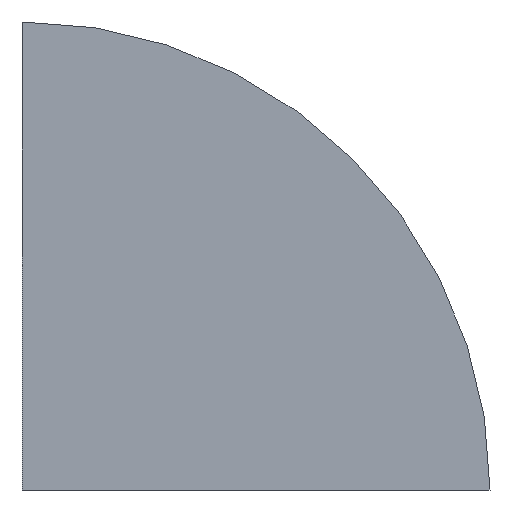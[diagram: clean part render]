
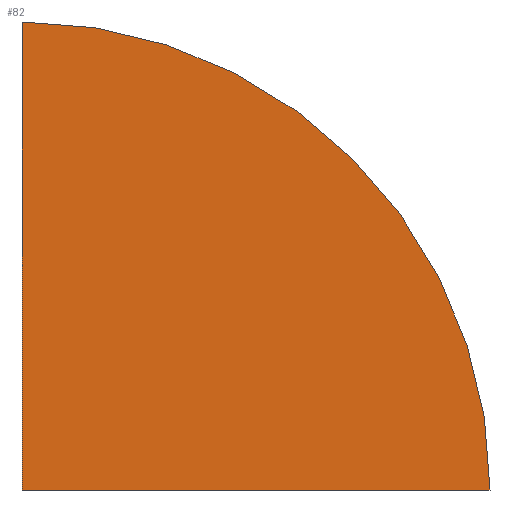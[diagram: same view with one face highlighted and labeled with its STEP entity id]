
A CAD part, front view. The second image highlights one B-rep face of the part: STEP entity #82.
In plain terms, the highlighted planar face has unit normal (0, -1, 0).
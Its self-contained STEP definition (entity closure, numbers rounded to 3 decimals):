
#51=CARTESIAN_POINT('Axis2P3D Location',(0.,0.,0.)) ;
#56=CARTESIAN_POINT('Line Origine',(50.5,0.,0.)) ;
#60=CARTESIAN_POINT('Vertex',(0.,0.,0.)) ;
#62=CARTESIAN_POINT('Vertex',(101.,0.,0.)) ;
#65=CARTESIAN_POINT('Axis2P3D Location',(0.,0.,0.)) ;
#69=CARTESIAN_POINT('Vertex',(0.,0.,101.)) ;
#72=CARTESIAN_POINT('Line Origine',(0.,0.,50.5)) ;
#52=DIRECTION('Axis2P3D Direction',(0.,-1.,0.)) ;
#53=DIRECTION('Axis2P3D XDirection',(1.,0.,0.)) ;
#57=DIRECTION('Vector Direction',(1.,0.,0.)) ;
#66=DIRECTION('Axis2P3D Direction',(0.,-1.,0.)) ;
#73=DIRECTION('Vector Direction',(0.,0.,1.)) ;
#54=AXIS2_PLACEMENT_3D('Plane Axis2P3D',#51,#52,#53) ;
#67=AXIS2_PLACEMENT_3D('Circle Axis2P3D',#65,#66,$) ;
#78=ORIENTED_EDGE('',*,*,#64,.T.) ;
#79=ORIENTED_EDGE('',*,*,#71,.T.) ;
#80=ORIENTED_EDGE('',*,*,#76,.F.) ;
#58=VECTOR('Line Direction',#57,1.) ;
#74=VECTOR('Line Direction',#73,1.) ;
#82=ADVANCED_FACE('PartBody',(#81),#55,.T.) ;
#68=CIRCLE('generated circle',#67,101.) ;
#64=EDGE_CURVE('',#61,#63,#59,.T.) ;
#71=EDGE_CURVE('',#63,#70,#68,.T.) ;
#76=EDGE_CURVE('',#61,#70,#75,.T.) ;
#77=EDGE_LOOP('',(#78,#79,#80)) ;
#81=FACE_OUTER_BOUND('',#77,.T.) ;
#59=LINE('Line',#56,#58) ;
#75=LINE('Line',#72,#74) ;
#55=PLANE('',#54) ;
#61=VERTEX_POINT('',#60) ;
#63=VERTEX_POINT('',#62) ;
#70=VERTEX_POINT('',#69) ;
